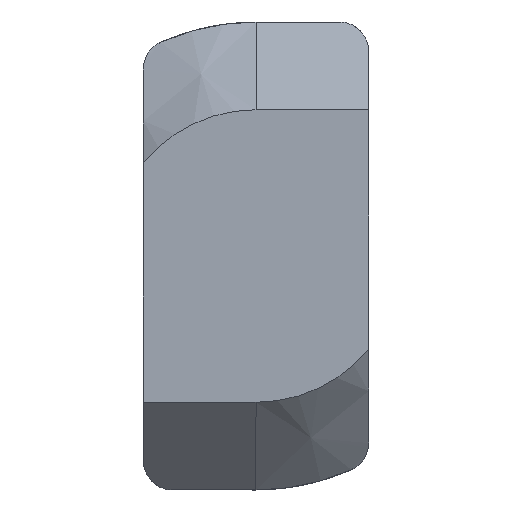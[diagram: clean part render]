
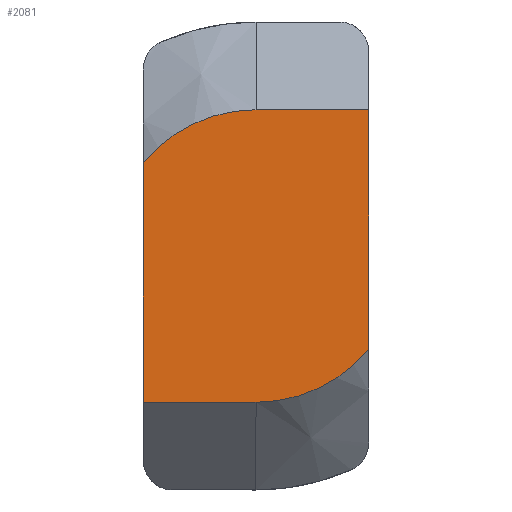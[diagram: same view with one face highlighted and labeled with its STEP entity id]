
A CAD part, front view. The second image highlights one B-rep face of the part: STEP entity #2081.
In plain terms, the highlighted planar face has unit normal (0, -1, 0).
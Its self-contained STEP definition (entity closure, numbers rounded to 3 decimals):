
#6 = LINE ( 'NONE', #7, #989 ) ;
#7 = CARTESIAN_POINT ( 'NONE',  ( 3.85, -12.25, 0.303 ) ) ;
#8 = DIRECTION ( 'NONE',  ( 0., 0., -1. ) ) ;
#224 = CARTESIAN_POINT ( 'NONE',  ( 0., -12.25, 0. ) ) ;
#225 = DIRECTION ( 'NONE',  ( 0., -1., 0. ) ) ;
#226 = DIRECTION ( 'NONE',  ( 0., 0., 1. ) ) ;
#227 = CARTESIAN_POINT ( 'NONE',  ( 0., -12.25, 0. ) ) ;
#231 = DIRECTION ( 'NONE',  ( 0., -1., 0. ) ) ;
#232 = DIRECTION ( 'NONE',  ( 0., 0., 1. ) ) ;
#249 = LINE ( 'NONE', #250, #966 ) ;
#250 = CARTESIAN_POINT ( 'NONE',  ( -3.85, -12.25, 5. ) ) ;
#251 = DIRECTION ( 'NONE',  ( -1., 0., 0. ) ) ;
#442 = CIRCLE ( 'NONE', #961, 5. ) ;
#443 = CIRCLE ( 'NONE', #964, 5. ) ;
#670 = EDGE_LOOP ( 'NONE', ( #1454, #2616, #2557, #2598, #2553, #2617 ) ) ;
#731 = DIRECTION ( 'NONE',  ( 0., -1., 0. ) ) ;
#732 = DIRECTION ( 'NONE',  ( 0., 0., -1. ) ) ;
#779 = LINE ( 'NONE', #780, #2490 ) ;
#780 = CARTESIAN_POINT ( 'NONE',  ( -3.85, -12.25, -5. ) ) ;
#781 = DIRECTION ( 'NONE',  ( 1., 0., 0. ) ) ;
#865 = LINE ( 'NONE', #866, #2445 ) ;
#866 = CARTESIAN_POINT ( 'NONE',  ( -3.85, -12.25, -0.303 ) ) ;
#867 = DIRECTION ( 'NONE',  ( 0., 0., 1. ) ) ;
#961 = AXIS2_PLACEMENT_3D ( 'NONE', #224, #225, #226 ) ;
#964 = AXIS2_PLACEMENT_3D ( 'NONE', #227, #231, #232 ) ;
#966 = VECTOR ( 'NONE', #251, 1000. ) ;
#989 = VECTOR ( 'NONE', #8, 1000. ) ;
#1047 = VERTEX_POINT ( 'NONE', #2008 ) ;
#1058 = VERTEX_POINT ( 'NONE', #2012 ) ;
#1063 = VERTEX_POINT ( 'NONE', #2015 ) ;
#1076 = VERTEX_POINT ( 'NONE', #2022 ) ;
#1082 = VERTEX_POINT ( 'NONE', #2026 ) ;
#1085 = VERTEX_POINT ( 'NONE', #2029 ) ;
#1454 = ORIENTED_EDGE ( 'NONE', *, *, #2094, .T. ) ;
#1867 = PLANE ( 'NONE',  #2325 ) ;
#1868 = CARTESIAN_POINT ( 'NONE',  ( -3.85, -12.25, 5. ) ) ;
#2008 = CARTESIAN_POINT ( 'NONE',  ( 0., -12.25, 5. ) ) ;
#2012 = CARTESIAN_POINT ( 'NONE',  ( 0., -12.25, -5. ) ) ;
#2015 = CARTESIAN_POINT ( 'NONE',  ( -3.85, -12.25, 3.19 ) ) ;
#2022 = CARTESIAN_POINT ( 'NONE',  ( 3.85, -12.25, -3.19 ) ) ;
#2026 = CARTESIAN_POINT ( 'NONE',  ( -3.85, -12.25, -5. ) ) ;
#2029 = CARTESIAN_POINT ( 'NONE',  ( 3.85, -12.25, 5. ) ) ;
#2081 = ADVANCED_FACE ( 'NONE', ( #2319 ), #1867, .T. ) ;
#2094 = EDGE_CURVE ( 'NONE', #1082, #1058, #779, .T. ) ;
#2109 = EDGE_CURVE ( 'NONE', #1082, #1063, #865, .T. ) ;
#2181 = EDGE_CURVE ( 'NONE', #1058, #1076, #442, .T. ) ;
#2183 = EDGE_CURVE ( 'NONE', #1047, #1063, #443, .T. ) ;
#2186 = EDGE_CURVE ( 'NONE', #1085, #1047, #249, .T. ) ;
#2215 = EDGE_CURVE ( 'NONE', #1085, #1076, #6, .T. ) ;
#2319 = FACE_OUTER_BOUND ( 'NONE', #670, .T. ) ;
#2325 = AXIS2_PLACEMENT_3D ( 'NONE', #1868, #731, #732 ) ;
#2445 = VECTOR ( 'NONE', #867, 1000. ) ;
#2490 = VECTOR ( 'NONE', #781, 1000. ) ;
#2553 = ORIENTED_EDGE ( 'NONE', *, *, #2183, .T. ) ;
#2557 = ORIENTED_EDGE ( 'NONE', *, *, #2215, .F. ) ;
#2598 = ORIENTED_EDGE ( 'NONE', *, *, #2186, .T. ) ;
#2616 = ORIENTED_EDGE ( 'NONE', *, *, #2181, .T. ) ;
#2617 = ORIENTED_EDGE ( 'NONE', *, *, #2109, .F. ) ;
